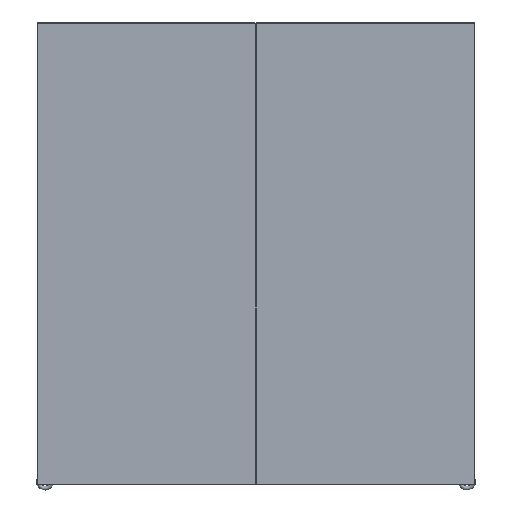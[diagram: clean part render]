
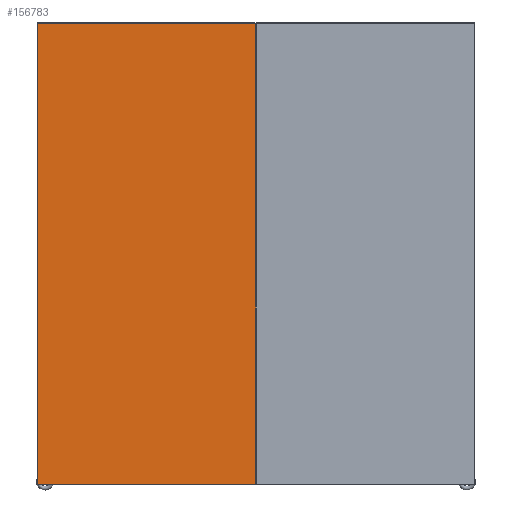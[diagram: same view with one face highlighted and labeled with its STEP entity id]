
A CAD part, top view. The second image highlights one B-rep face of the part: STEP entity #156783.
In plain terms, the highlighted planar face has unit normal (0, 0, 1).
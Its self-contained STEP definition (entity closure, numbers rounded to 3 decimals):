
#2825 = CARTESIAN_POINT ( 'NONE',  ( -18.697, 39.497, 0. ) ) ;
#2927 = CARTESIAN_POINT ( 'NONE',  ( 18.697, -39.497, 0. ) ) ;
#2939 = CARTESIAN_POINT ( 'NONE',  ( -18.697, 39.497, 0. ) ) ;
#2945 = DIRECTION ( 'NONE',  ( 0., -1., 0. ) ) ;
#2977 = CARTESIAN_POINT ( 'NONE',  ( -18.697, 39.497, 0. ) ) ;
#2978 = DIRECTION ( 'NONE',  ( -1., 0., 0. ) ) ;
#2984 = CARTESIAN_POINT ( 'NONE',  ( 18.697, 39.497, 0. ) ) ;
#2985 = DIRECTION ( 'NONE',  ( 0., 1., 0. ) ) ;
#2988 = CARTESIAN_POINT ( 'NONE',  ( -18.697, -39.497, 0. ) ) ;
#2990 = DIRECTION ( 'NONE',  ( 1., 0., 0. ) ) ;
#37507 = ORIENTED_EDGE ( 'NONE', *, *, #146975, .T. ) ;
#37509 = ORIENTED_EDGE ( 'NONE', *, *, #146972, .T. ) ;
#37511 = ORIENTED_EDGE ( 'NONE', *, *, #146978, .T. ) ;
#37515 = ORIENTED_EDGE ( 'NONE', *, *, #146958, .T. ) ;
#41825 = VERTEX_POINT ( 'NONE', #114138 ) ;
#42235 = VERTEX_POINT ( 'NONE', #153080 ) ;
#65138 = FACE_OUTER_BOUND ( 'NONE', #138437, .T. ) ;
#97691 = CARTESIAN_POINT ( 'NONE',  ( -18.697, -39.497, 0. ) ) ;
#97716 = PLANE ( 'NONE',  #102957 ) ;
#97743 = DIRECTION ( 'NONE',  ( 0., 0., 1. ) ) ;
#97748 = DIRECTION ( 'NONE',  ( 1., 0., 0. ) ) ;
#102957 = AXIS2_PLACEMENT_3D ( 'NONE', #97691, #97743, #97748 ) ;
#114138 = CARTESIAN_POINT ( 'NONE',  ( -18.697, -39.497, 0. ) ) ;
#137770 = VECTOR ( 'NONE', #2945, 39.37 ) ;
#137774 = LINE ( 'NONE', #2939, #137770 ) ;
#137801 = LINE ( 'NONE', #2988, #137845 ) ;
#137824 = LINE ( 'NONE', #2977, #137826 ) ;
#137826 = VECTOR ( 'NONE', #2978, 39.37 ) ;
#137835 = LINE ( 'NONE', #2984, #137837 ) ;
#137837 = VECTOR ( 'NONE', #2985, 39.37 ) ;
#137845 = VECTOR ( 'NONE', #2990, 39.37 ) ;
#138437 = EDGE_LOOP ( 'NONE', ( #37515, #37511, #37507, #37509 ) ) ;
#143787 = VERTEX_POINT ( 'NONE', #2825 ) ;
#144402 = VERTEX_POINT ( 'NONE', #2927 ) ;
#146958 = EDGE_CURVE ( 'NONE', #143787, #41825, #137774, .T. ) ;
#146972 = EDGE_CURVE ( 'NONE', #42235, #143787, #137824, .T. ) ;
#146975 = EDGE_CURVE ( 'NONE', #144402, #42235, #137835, .T. ) ;
#146978 = EDGE_CURVE ( 'NONE', #41825, #144402, #137801, .T. ) ;
#153080 = CARTESIAN_POINT ( 'NONE',  ( 18.697, 39.497, 0. ) ) ;
#156783 = ADVANCED_FACE ( 'NONE', ( #65138 ), #97716, .T. ) ;
